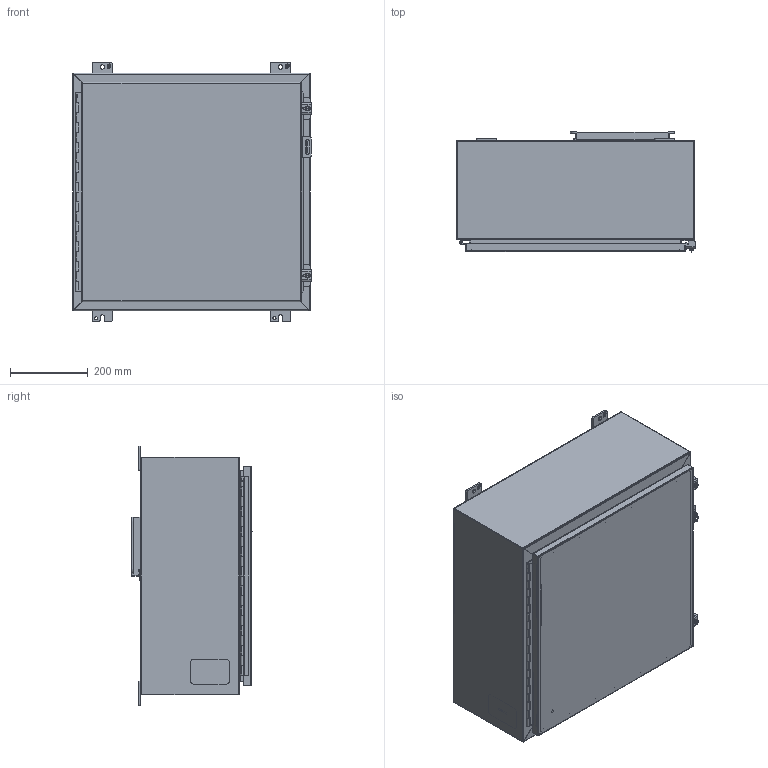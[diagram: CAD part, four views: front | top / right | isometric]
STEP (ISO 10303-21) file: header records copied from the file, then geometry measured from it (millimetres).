
FILE_DESCRIPTION(/* description */ ('Unknown'),/* implementation_level */ '2;1');
FILE_NAME(/* name */ '1418J10LP',/* time_stamp */ '2026-02-20T16:31:49-05:00',/* author */ ('Unknown'),/* organization */ ('Unknown'),/* preprocessor_version */ 'ST-DEVELOPER v18.104',/* originating_system */ 'Solid Edge',/* authorisation */ 'Unknown');
FILE_SCHEMA (('AUTOMOTIVE_DESIGN {1 0 10303 214 3 1 1}'));
Length unit declared in the file: millimetre
Products named in the file (30): 1418J10LP; STD26094; STD21878; COM42780; KIT90256; LAB30005; NTS165305; NTS16535; HNG10620-20B; KIT90518; WAF25059; NTS166105; COM40153-1; COM71780-11; COM40153-2; PNT11078; HNG10620-20C; COM70219_oa_0; COM70019; FET07710; HNG10620-20P; AKT90223; SPR20265; SCC19011; WAF25035; COM42667; BUL10020; QLB30109; PKT99
Assembly tree (40 placements, depth 3):
  1418J10LP
    STD26094  x4
    STD21878
    COM42780  x2
    KIT90256
      LAB30005
      NTS165305
      NTS16535
    HNG10620-20B
    KIT90518
      WAF25059
      NTS166105
      LAB30005
    COM40153-1
    COM71780-11
      COM40153-2
      PNT11078
      HNG10620-20C
      COM70219_oa_0
      COM71780-11
      STD21878
    COM70019
    FET07710  x4
    HNG10620-20P
    AKT90223  x2
      SPR20265
      SCC19011
      WAF25035
      COM42667
    BUL10020
    QLB30109
    PKT99
    PNT11078
Bounding box: 612.77 x 307.98 x 666.75 mm (x, y, z)
Volume: 3091357.9 mm3; surface area: 3319424.5 mm2
Topology: 34 solids, 35 shells, 1181 faces, 3003 edges, 1926 vertices
Faces by surface type: plane 786, cylinder 298, bspline 49, cone 26, torus 20, sphere 2
Full cylindrical faces by diameter (mm): 3.175 x1, 4.763 x1, 4.976 x1, 5.41 x2, 6.198 x2, 6.35 x3, 6.731 x2, 7.137 x2, 7.805 x1, 7.938 x4, 8.382 x4, 9.525 x4, 9.906 x2, 11.113 x4, 11.303 x1, 12.7 x2, 16.51 x4, 25.4 x1, 88.9 x1
Entity records: 29533 total; most frequent: CARTESIAN_POINT 8209, ORIENTED_EDGE 4256, DIRECTION 4023, EDGE_CURVE 2128, LINE 1449, VECTOR 1449, VERTEX_POINT 1369, AXIS2_PLACEMENT_3D 1287
